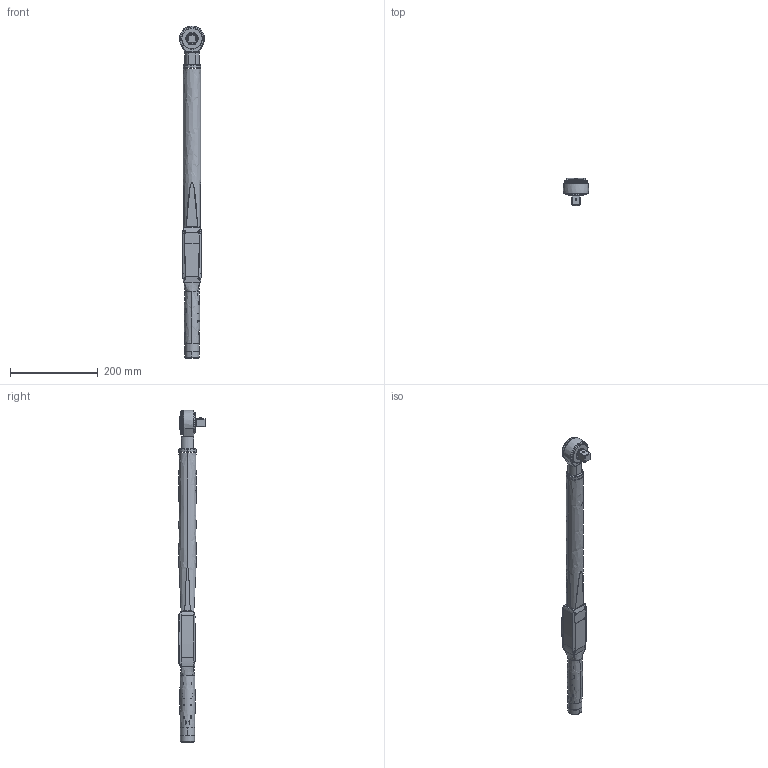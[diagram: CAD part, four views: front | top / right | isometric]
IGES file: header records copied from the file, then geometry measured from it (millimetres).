
Start section:  PTC IGES file: 6152210380_dim.igs
Global section: file name: 6152210380_dim.igs; native system: Creo Parametric by PTC Inc.; preprocessor: 2021072; author: S00000450; organization: Unknown; date: 20210628.091103; units: millimetre
Bounding box: 57.26 x 62.45 x 754.92 mm (x, y, z)
Surface area: 108702.5 mm2 (no closed solid volume)
Topology: 0 solids, 0 shells, 508 faces, 2726 edges, 2726 vertices
Faces by surface type: bspline 361, revolution 139, extrusion 8
